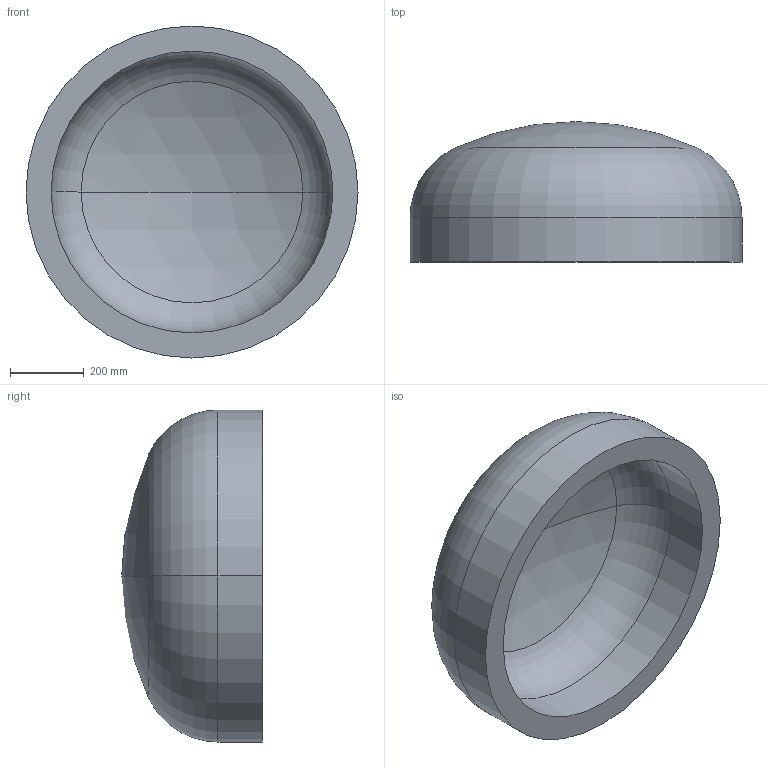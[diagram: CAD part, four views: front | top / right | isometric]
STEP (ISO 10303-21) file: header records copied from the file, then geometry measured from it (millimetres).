
FILE_DESCRIPTION (( 'STEP AP203' ), '1' );
FILE_NAME ('DIN 28013 Korbbogenform_-_Boden DIN 28013 - 900 x 120 - I - s=68.step', '2016-07-01T08:35:08', ( '' ), ( '' ), 'SwSTEP 2.0', 'SolidWorks 2013', '' );
FILE_SCHEMA (( 'CONFIG_CONTROL_DESIGN' ));
Length unit declared in the file: millimetre
Products named in the file (1): DIN 28013 Korbbogenform_-_Boden DIN 28013 - 900 x 120 - I - s=68
Bounding box: 900 x 380.9 x 900 mm (x, y, z)
Volume: 75919473.6 mm3; surface area: 2420348.5 mm2
Topology: 1 solids, 1 shells, 13 faces, 24 edges, 14 vertices
Faces by surface type: torus 4, cylinder 4, sphere 4, plane 1
Entity records: 407 total; most frequent: DIRECTION 72, CARTESIAN_POINT 52, ORIENTED_EDGE 48, AXIS2_PLACEMENT_3D 34, EDGE_CURVE 24, CIRCLE 20, EDGE_LOOP 14, VERTEX_POINT 14
